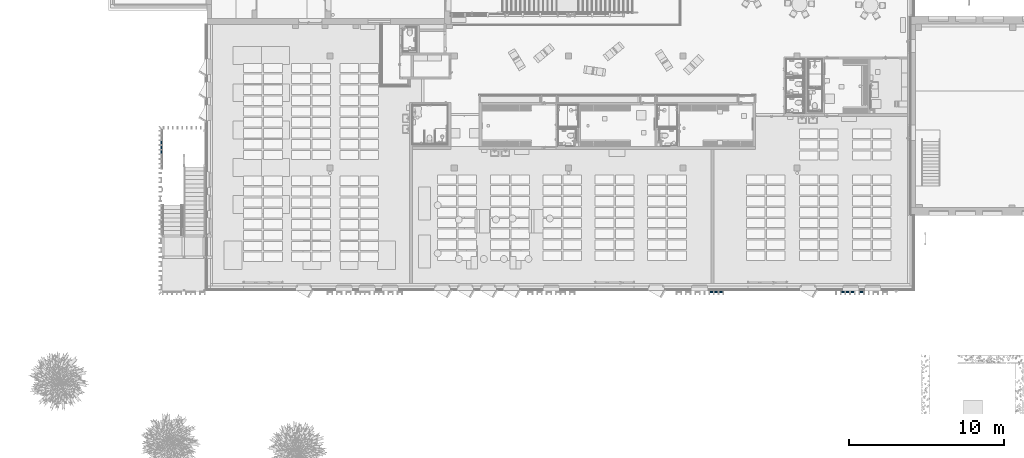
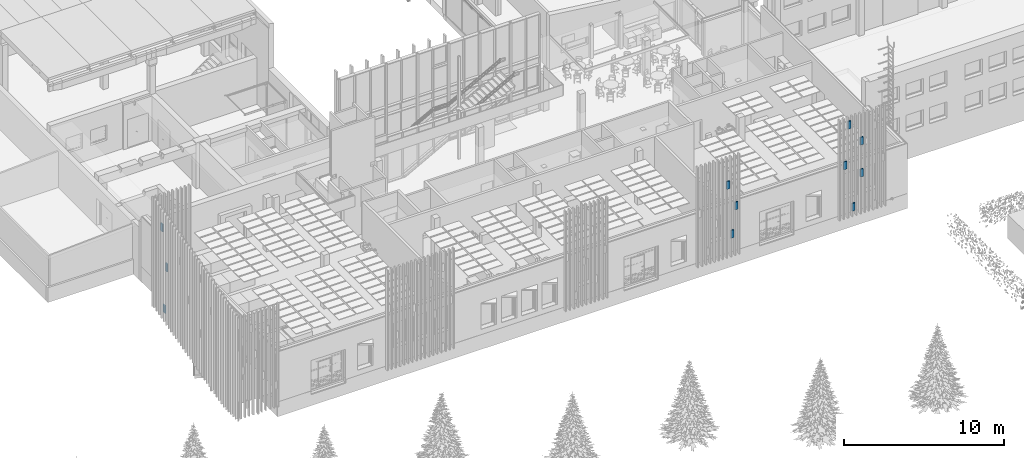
# One storey, part 23 of 301: 11 columns.
"""IFC2X3 building model written with IfcOpenShell, lengths in millimetres."""

from ifc_helpers import new_model, entity, si_unit, converted_unit, derived_unit, money_unit, direction, frame, origin_with_axes, place, context, subcontext, project, spatial, faceted_brep, material, type_object, element, save


model = new_model("IFC2X3")

# Units and contexts
model_context = context("Model", 3, precision=0.01, world=origin_with_axes(), true_north=direction((0.0, 1.0)))
body_context = subcontext(model_context, "Body", "Model", "MODEL_VIEW")
ifc_project = project(units=[si_unit("LENGTHUNIT", "METRE", prefix="MILLI"), si_unit("AREAUNIT", "SQUARE_METRE"), si_unit("VOLUMEUNIT", "CUBIC_METRE"), converted_unit("PLANEANGLEUNIT", "DEGREE", entity("IfcPlaneAngleMeasure", 0.0174532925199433), si_unit("PLANEANGLEUNIT", "RADIAN"), dimensions=[0, 0, 0, 0, 0, 0, 0]), money_unit("EUR"), converted_unit("TIMEUNIT", "Year", entity("IfcTimeMeasure", 31557600.0), si_unit("TIMEUNIT", "SECOND"), dimensions=[0, 0, 1, 0, 0, 0, 0]), si_unit("MASSUNIT", "GRAM", prefix="KILO"), si_unit("THERMODYNAMICTEMPERATUREUNIT", "DEGREE_CELSIUS"), si_unit("LUMINOUSINTENSITYUNIT", "LUMEN"), si_unit("ENERGYUNIT", "JOULE", prefix="MEGA"), derived_unit("THERMALCONDUCTANCEUNIT", [(si_unit("POWERUNIT", "WATT"), 1), (si_unit("LENGTHUNIT", "METRE"), -1), (si_unit("THERMODYNAMICTEMPERATUREUNIT", "KELVIN"), -1)]), derived_unit("SPECIFICHEATCAPACITYUNIT", [(si_unit("ENERGYUNIT", "JOULE"), 1), (si_unit("MASSUNIT", "GRAM", prefix="KILO"), -1), (si_unit("THERMODYNAMICTEMPERATUREUNIT", "KELVIN"), -1)]), derived_unit("MASSDENSITYUNIT", [(si_unit("MASSUNIT", "GRAM", prefix="KILO"), 1), (si_unit("VOLUMEUNIT", "CUBIC_METRE"), -1)])], contexts=[model_context])

# Site, building, storey
site_placement = place(None, frame((0.0, 0.0, 8650.0), z_axis=(0.0, 0.0, 1.0), x_axis=(1.0, 0.0, 0.0)))
site = spatial("IfcSite", under=ifc_project, at=site_placement, Name="43301:001:0844", CompositionType="ELEMENT")
building_placement = place(site_placement, origin_with_axes())
building = spatial("IfcBuilding", under=site, at=building_placement, Name="Kuressaare Ametikooli tuulikute mehaanikute õppekorpus", CompositionType="ELEMENT")
storey_placement = place(building_placement, origin_with_axes())
storey = spatial("IfcBuildingStorey", under=building, at=storey_placement, Name="1.korrus", CompositionType="ELEMENT", Elevation=0.0)

# Columns
ifc_material = material(Name="GENEERILINE - KONSTRUKTRIOON")
column_type = type_object("IfcColumnType", Name="GENEERILINE - KONSTRUKTRIOON 225 x 75", PredefinedType="NOTDEFINED")
column_1_placement = place(storey_placement, frame((120405.5423111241, 8586.338490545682, 5262.349559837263), z_axis=(0.0, 0.0, 1.0), x_axis=(1.0, 0.0, 0.0)))
element("IfcColumn", 1, at=column_1_placement, inside=storey, type_object=column_type, material=ifc_material, Name="Varjestus_viltu", context=body_context, shape_type="Brep", body=[
    faceted_brep([(-112.4999999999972, -37.49999999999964, 593.4383502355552), (-112.4999999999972, -37.49999999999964, 0.0), (112.4999999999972, -37.49999999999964, 0.0), (112.4999999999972, -37.49999999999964, 593.4383502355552), (-112.4999999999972, 37.49999999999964, 599.9999999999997), (-112.4999999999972, 37.49999999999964, 0.0), (112.4999999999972, 37.49999999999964, 0.0), (112.4999999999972, 37.49999999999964, 599.9999999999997)], [[[0, 1, 2, 3]], [[4, 5, 1, 0]], [[2, 1, 5, 6]], [[3, 2, 6, 7]], [[4, 0, 3, 7]], [[7, 6, 5, 4]]]),
])
column_2_placement = place(storey_placement, frame((120705.5423111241, 8586.338490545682, 1426.263517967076), z_axis=(0.0, 0.0, 1.0), x_axis=(1.0, 0.0, 0.0)))
element("IfcColumn", 2, at=column_2_placement, inside=storey, type_object=column_type, material=ifc_material, Name="Varjestus_viltu", context=body_context, shape_type="Brep", body=[
    faceted_brep([(-112.4999999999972, -37.49999999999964, 593.4383502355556), (-112.4999999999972, -37.49999999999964, 0.0), (112.4999999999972, -37.49999999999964, 0.0), (112.4999999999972, -37.49999999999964, 593.4383502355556), (-112.4999999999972, 37.49999999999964, 600.0000000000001), (-112.4999999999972, 37.49999999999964, 0.0), (112.4999999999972, 37.49999999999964, 0.0), (112.4999999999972, 37.49999999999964, 600.0000000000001)], [[[0, 1, 2, 3]], [[4, 5, 1, 0]], [[2, 1, 5, 6]], [[3, 2, 6, 7]], [[4, 0, 3, 7]], [[7, 6, 5, 4]]]),
])
column_3_placement = place(storey_placement, frame((121005.5423111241, 8586.338490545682, 3482.960251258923), z_axis=(0.0, 0.0, 1.0), x_axis=(1.0, 0.0, 0.0)))
element("IfcColumn", 3, at=column_3_placement, inside=storey, type_object=column_type, material=ifc_material, Name="Varjestus_viltu", context=body_context, shape_type="Brep", body=[
    faceted_brep([(-112.4999999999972, -37.49999999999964, 593.4383502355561), (-112.4999999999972, -37.49999999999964, 0.0), (112.4999999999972, -37.49999999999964, 0.0), (112.4999999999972, -37.49999999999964, 593.4383502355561), (-112.4999999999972, 37.49999999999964, 599.9999999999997), (-112.4999999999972, 37.49999999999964, 0.0), (112.4999999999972, 37.49999999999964, 0.0), (112.4999999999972, 37.49999999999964, 599.9999999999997)], [[[0, 1, 2, 3]], [[4, 5, 1, 0]], [[2, 1, 5, 6]], [[3, 2, 6, 7]], [[4, 0, 3, 7]], [[7, 6, 5, 4]]]),
])
column_4_placement = place(storey_placement, frame((130071.2559016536, 8586.33849054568, 2825.579892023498), z_axis=(0.0, 0.0, 1.0), x_axis=(1.0, 0.0, 0.0)))
element("IfcColumn", 4, at=column_4_placement, inside=storey, type_object=column_type, material=ifc_material, Name="Varjestus_viltu", context=body_context, shape_type="Brep", body=[
    faceted_brep([(-112.4999999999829, -37.50000000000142, 593.4383502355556), (-112.4999999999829, -37.50000000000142, 0.0), (112.5000000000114, -37.49999999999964, 0.0), (112.5000000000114, -37.49999999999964, 593.4383502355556), (-112.4999999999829, 37.49999999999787, 600.0000000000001), (-112.4999999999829, 37.49999999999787, 0.0), (112.5000000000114, 37.49999999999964, 0.0), (112.5000000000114, 37.49999999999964, 600.0000000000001)], [[[0, 1, 2, 3]], [[4, 5, 1, 0]], [[2, 1, 5, 6]], [[3, 2, 6, 7]], [[4, 0, 3, 7]], [[7, 6, 5, 4]]]),
])
for number, where, z_axis, x_axis in (
    (5, (128871.2559016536, 8586.33849054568, 3804.065608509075), (0.0, 0.0, 1.0), (1.0, 0.0, 0.0)),
    (6, (129171.2559016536, 8586.33849054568, 6794.741059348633), (0.0, 0.0, 1.0), (1.0, 0.0, 0.0)),
):
    element("IfcColumn", number, at=place(storey_placement, frame(where, z_axis=z_axis, x_axis=x_axis)), inside=storey, type_object=column_type, material=ifc_material, Name="Varjestus_viltu", context=body_context, shape_type="Brep", body=[
        faceted_brep([(-112.4999999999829, -37.49999999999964, 593.4383502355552), (-112.4999999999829, -37.49999999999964, 0.0), (112.5000000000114, -37.49999999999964, 0.0), (112.5000000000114, -37.49999999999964, 593.4383502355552), (-112.4999999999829, 37.49999999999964, 599.9999999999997), (-112.4999999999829, 37.49999999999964, 0.0), (112.5000000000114, 37.49999999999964, 0.0), (112.5000000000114, 37.49999999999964, 599.9999999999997)], [[[0, 1, 2, 3]], [[4, 5, 1, 0]], [[2, 1, 5, 6]], [[3, 2, 6, 7]], [[4, 0, 3, 7]], [[7, 6, 5, 4]]]),
    ])
column_5_placement = place(storey_placement, frame((129471.2559016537, 8586.33849054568, 421.8568569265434), z_axis=(0.0, 0.0, 1.0), x_axis=(1.0, 0.0, 0.0)))
element("IfcColumn", 7, at=column_5_placement, inside=storey, type_object=column_type, material=ifc_material, Name="Varjestus_viltu", context=body_context, shape_type="Brep", body=[
    faceted_brep([(-112.4999999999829, -37.49999999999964, 593.4383502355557), (-112.4999999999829, -37.49999999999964, 0.0), (112.5000000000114, -37.49999999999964, 0.0), (112.5000000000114, -37.49999999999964, 593.4383502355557), (-112.4999999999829, 37.49999999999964, 599.9999999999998), (-112.4999999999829, 37.49999999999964, 0.0), (112.5000000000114, 37.49999999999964, 0.0), (112.5000000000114, 37.49999999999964, 599.9999999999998)], [[[0, 1, 2, 3]], [[4, 5, 1, 0]], [[2, 1, 5, 6]], [[3, 2, 6, 7]], [[4, 0, 3, 7]], [[7, 6, 5, 4]]]),
])
column_6_placement = place(storey_placement, frame((130071.2559016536, 8586.33849054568, 5262.349559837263), z_axis=(0.0, 0.0, 1.0), x_axis=(1.0, 0.0, 0.0)))
element("IfcColumn", 8, at=column_6_placement, inside=storey, type_object=column_type, material=ifc_material, Name="Varjestus_viltu", context=body_context, shape_type="Brep", body=[
    faceted_brep([(-112.4999999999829, -37.50000000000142, 593.4383502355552), (-112.4999999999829, -37.50000000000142, 0.0), (112.5000000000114, -37.49999999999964, 0.0), (112.5000000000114, -37.49999999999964, 593.4383502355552), (-112.4999999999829, 37.49999999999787, 599.9999999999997), (-112.4999999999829, 37.49999999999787, 0.0), (112.5000000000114, 37.49999999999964, 0.0), (112.5000000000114, 37.49999999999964, 599.9999999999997)], [[[0, 1, 2, 3]], [[4, 5, 1, 0]], [[2, 1, 5, 6]], [[3, 2, 6, 7]], [[4, 0, 3, 7]], [[7, 6, 5, 4]]]),
])
for number, where, z_axis, x_axis in (
    (9, (85006.7273876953, 17889.37154727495, 2552.177576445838), (0.0, 0.0, 1.0), (0.0, -1.0, 0.0)),
    (10, (85008.72662386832, 17590.4180838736, 5897.188198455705), (0.0, 0.0, 1.0), (0.0, -1.0, 0.0)),
):
    element("IfcColumn", number, at=place(storey_placement, frame(where, z_axis=z_axis, x_axis=x_axis)), inside=storey, type_object=column_type, material=ifc_material, Name="Varjestus_viltu", context=body_context, shape_type="Brep", body=[
        faceted_brep([(-112.5000000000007, -37.50000000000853, 593.4383502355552), (-112.5000000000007, -37.50000000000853, 0.0), (112.5000000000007, -37.50000000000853, 0.0), (112.5000000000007, -37.50000000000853, 593.4383502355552), (-112.5000000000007, 37.49999999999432, 599.9999999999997), (-112.5000000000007, 37.49999999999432, 0.0), (112.5000000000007, 37.49999999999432, 0.0), (112.5000000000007, 37.49999999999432, 599.9999999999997)], [[[0, 1, 2, 3]], [[4, 5, 1, 0]], [[2, 1, 5, 6]], [[3, 2, 6, 7]], [[4, 0, 3, 7]], [[7, 6, 5, 4]]]),
    ])
column_7_placement = place(storey_placement, frame((85008.72662386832, 18190.4180838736, 8599.292151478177), z_axis=(0.0, 0.0, 1.0), x_axis=(0.0, -1.0, 0.0)))
element("IfcColumn", 11, at=column_7_placement, inside=storey, type_object=column_type, material=ifc_material, Name="Varjestus_viltu", context=body_context, shape_type="Brep", body=[
    faceted_brep([(-112.5000000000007, -37.50000000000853, 593.4383502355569), (-112.5000000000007, -37.50000000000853, 0.0), (112.5000000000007, -37.50000000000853, 0.0), (112.5000000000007, -37.50000000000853, 593.4383502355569), (-112.5000000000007, 37.49999999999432, 600.0000000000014), (-112.5000000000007, 37.49999999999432, 0.0), (112.5000000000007, 37.49999999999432, 0.0), (112.5000000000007, 37.49999999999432, 600.0000000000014)], [[[0, 1, 2, 3]], [[4, 5, 1, 0]], [[2, 1, 5, 6]], [[3, 2, 6, 7]], [[4, 0, 3, 7]], [[7, 6, 5, 4]]]),
])

save(model, "model.ifc")
